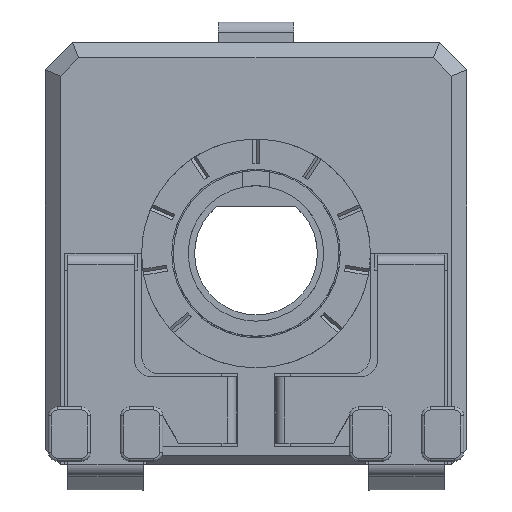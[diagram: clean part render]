
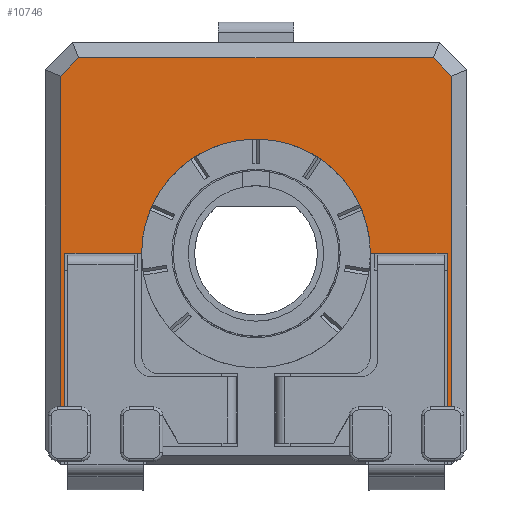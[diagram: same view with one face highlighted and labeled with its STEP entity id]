
A CAD part, top view. The second image highlights one B-rep face of the part: STEP entity #10746.
In plain terms, the highlighted planar face has unit normal (0, 0, 1).
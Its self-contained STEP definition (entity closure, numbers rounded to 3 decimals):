
#469=PLANE('',#11522);
#988=FACE_OUTER_BOUND('',#1543,.T.);
#1543=EDGE_LOOP('',(#9353,#9354,#9355,#9356,#9357,#9358,#9359,#9360,#9361,
#9362,#9363,#9364));
#1885=LINE('',#15201,#3104);
#1953=LINE('',#15454,#3172);
#2193=LINE('',#16185,#3412);
#2196=LINE('',#16190,#3415);
#2468=LINE('',#16842,#3687);
#2501=LINE('',#16969,#3720);
#2724=LINE('',#17518,#3943);
#2725=LINE('',#17521,#3944);
#2726=LINE('',#17522,#3945);
#2727=LINE('',#17525,#3946);
#2728=LINE('',#17526,#3947);
#3104=VECTOR('',#12246,10.);
#3172=VECTOR('',#12528,10.);
#3412=VECTOR('',#13042,10.);
#3415=VECTOR('',#13047,10.);
#3687=VECTOR('',#13469,10.);
#3720=VECTOR('',#13544,10.);
#3943=VECTOR('',#14065,10.);
#3944=VECTOR('',#14068,10.);
#3945=VECTOR('',#14069,10.);
#3946=VECTOR('',#14072,10.);
#3947=VECTOR('',#14073,10.);
#4302=CIRCLE('',#11523,3.8);
#4513=VERTEX_POINT('',#15002);
#4572=VERTEX_POINT('',#15200);
#4649=VERTEX_POINT('',#15451);
#4650=VERTEX_POINT('',#15453);
#4697=VERTEX_POINT('',#15607);
#4698=VERTEX_POINT('',#15609);
#4847=VERTEX_POINT('',#16181);
#4848=VERTEX_POINT('',#16183);
#5057=VERTEX_POINT('',#16838);
#5083=VERTEX_POINT('',#16968);
#5214=VERTEX_POINT('',#17520);
#5215=VERTEX_POINT('',#17524);
#5639=EDGE_CURVE('',#4572,#4513,#1885,.T.);
#5765=EDGE_CURVE('',#4650,#4649,#1953,.T.);
#6065=EDGE_CURVE('',#4848,#4847,#2193,.T.);
#6068=EDGE_CURVE('',#4847,#4649,#2196,.T.);
#6361=EDGE_CURVE('',#4572,#5057,#2468,.T.);
#6406=EDGE_CURVE('',#5057,#5083,#2501,.T.);
#6656=EDGE_CURVE('',#5083,#4848,#2724,.T.);
#6657=EDGE_CURVE('',#4513,#5214,#2725,.T.);
#6658=EDGE_CURVE('',#5214,#4698,#2726,.T.);
#6659=EDGE_CURVE('',#4698,#4697,#4302,.T.);
#6660=EDGE_CURVE('',#4697,#5215,#2727,.T.);
#6661=EDGE_CURVE('',#5215,#4650,#2728,.T.);
#9353=ORIENTED_EDGE('',*,*,#5639,.T.);
#9354=ORIENTED_EDGE('',*,*,#6657,.T.);
#9355=ORIENTED_EDGE('',*,*,#6658,.T.);
#9356=ORIENTED_EDGE('',*,*,#6659,.T.);
#9357=ORIENTED_EDGE('',*,*,#6660,.T.);
#9358=ORIENTED_EDGE('',*,*,#6661,.T.);
#9359=ORIENTED_EDGE('',*,*,#5765,.T.);
#9360=ORIENTED_EDGE('',*,*,#6068,.F.);
#9361=ORIENTED_EDGE('',*,*,#6065,.F.);
#9362=ORIENTED_EDGE('',*,*,#6656,.F.);
#9363=ORIENTED_EDGE('',*,*,#6406,.F.);
#9364=ORIENTED_EDGE('',*,*,#6361,.F.);
#10746=ADVANCED_FACE('',(#988),#469,.T.);
#11522=AXIS2_PLACEMENT_3D('',#17519,#14066,#14067);
#11523=AXIS2_PLACEMENT_3D('',#17523,#14070,#14071);
#12246=DIRECTION('',(1.,0.,0.));
#12528=DIRECTION('',(1.,0.,0.));
#13042=DIRECTION('',(0.707,-0.707,0.));
#13047=DIRECTION('',(0.,-1.,0.));
#13469=DIRECTION('',(0.,1.,0.));
#13544=DIRECTION('',(0.707,0.707,0.));
#14065=DIRECTION('',(1.,0.,0.));
#14066=DIRECTION('center_axis',(0.,0.,1.));
#14067=DIRECTION('ref_axis',(1.,0.,0.));
#14068=DIRECTION('',(0.,1.,0.));
#14069=DIRECTION('',(1.,0.,0.));
#14070=DIRECTION('center_axis',(0.,0.,-1.));
#14071=DIRECTION('ref_axis',(-1.,0.,0.));
#14072=DIRECTION('',(1.,0.,0.));
#14073=DIRECTION('',(0.,-1.,0.));
#15002=CARTESIAN_POINT('',(-13.817,-7.998,4.4));
#15200=CARTESIAN_POINT('',(-13.967,-7.998,4.4));
#15201=CARTESIAN_POINT('',(-10.217,-7.998,4.4));
#15451=CARTESIAN_POINT('',(-0.967,-7.998,4.4));
#15453=CARTESIAN_POINT('',(-1.117,-7.998,4.4));
#15454=CARTESIAN_POINT('',(-4.017,-7.998,4.4));
#15607=CARTESIAN_POINT('',(-3.667,-2.898,4.4));
#15609=CARTESIAN_POINT('',(-11.267,-2.898,4.4));
#16181=CARTESIAN_POINT('',(-0.967,2.994,4.4));
#16183=CARTESIAN_POINT('',(-1.574,3.602,4.4));
#16185=CARTESIAN_POINT('',(-1.271,3.298,4.4));
#16190=CARTESIAN_POINT('',(-0.967,0.602,4.4));
#16838=CARTESIAN_POINT('',(-13.967,2.994,4.4));
#16842=CARTESIAN_POINT('',(-13.967,-6.398,4.4));
#16968=CARTESIAN_POINT('',(-13.36,3.602,4.4));
#16969=CARTESIAN_POINT('',(-13.663,3.298,4.4));
#17518=CARTESIAN_POINT('',(-10.967,3.602,4.4));
#17519=CARTESIAN_POINT('Origin',(-7.467,-2.898,4.4));
#17520=CARTESIAN_POINT('',(-13.817,-2.898,4.4));
#17521=CARTESIAN_POINT('',(-13.817,-3.173,4.4));
#17522=CARTESIAN_POINT('',(-9.442,-2.898,4.4));
#17523=CARTESIAN_POINT('Origin',(-7.467,-2.898,4.4));
#17524=CARTESIAN_POINT('',(-1.117,-2.898,4.4));
#17525=CARTESIAN_POINT('',(-5.492,-2.898,4.4));
#17526=CARTESIAN_POINT('',(-1.117,-2.898,4.4));
